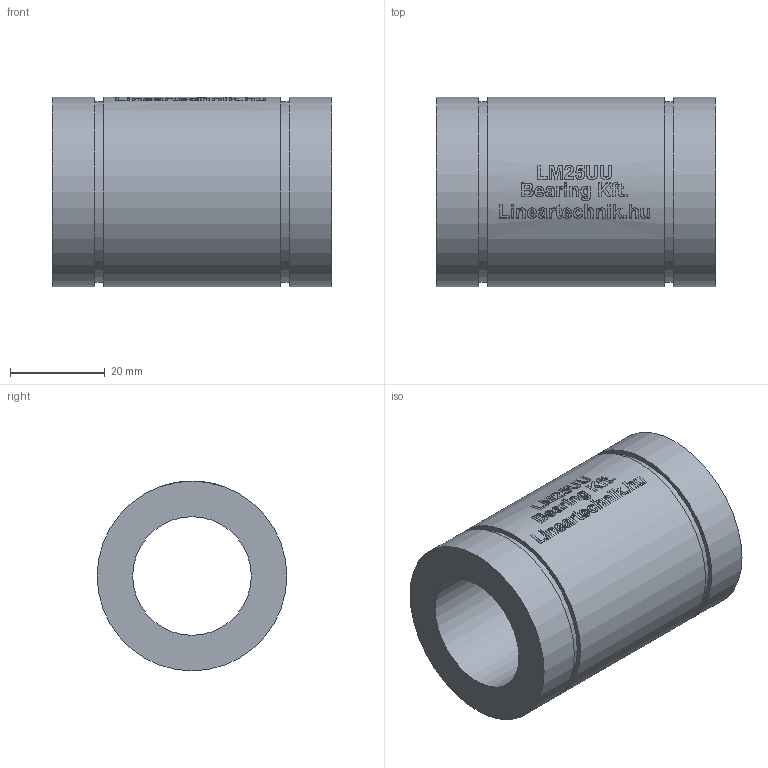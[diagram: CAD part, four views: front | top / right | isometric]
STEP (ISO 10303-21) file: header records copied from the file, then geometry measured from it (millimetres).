
FILE_DESCRIPTION(/* description */ ('Huosing for flange nuts'),/* implementation_level */ '2;1');
FILE_NAME(/* name */ 'LM25UU',/* time_stamp */ '2019-05-07T14:08:03+02:00',/* author */ ('VĂ©gh MĂˇtĂ©'),/* organization */ ('Bearing Kft'),/* preprocessor_version */ 'ST-DEVELOPER v16.7',/* originating_system */ 'DEX',/* authorisation */ $);
FILE_SCHEMA (('AUTOMOTIVE_DESIGN {1 0 10303 214 3 1 1}'));
Length unit declared in the file: millimetre
Products named in the file (1): LM25UU
Bounding box: 59 x 40 x 40 mm (x, y, z)
Volume: 44717.5 mm3; surface area: 14082.7 mm2
Topology: 1 solids, 1 shells, 304 faces, 765 edges, 511 vertices
Faces by surface type: plane 157, bspline 97, cylinder 50
Full cylindrical faces by diameter (mm): 25 x1, 38 x2, 40 x3
Entity records: 17540 total; most frequent: CARTESIAN_POINT 10760, ORIENTED_EDGE 1512, DIRECTION 1116, EDGE_CURVE 756, VERTEX_POINT 509, LINE 418, VECTOR 418, EDGE_LOOP 361
